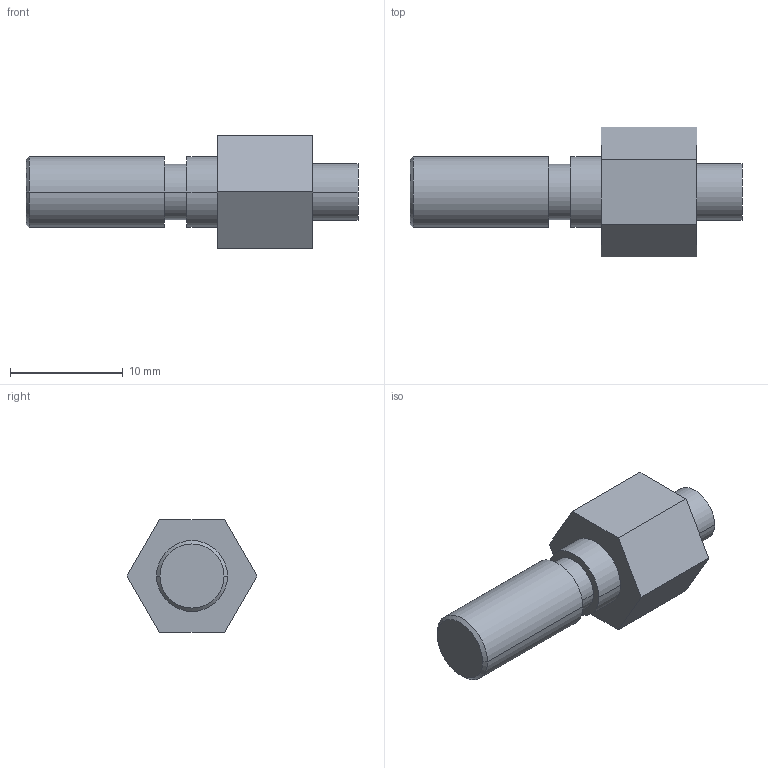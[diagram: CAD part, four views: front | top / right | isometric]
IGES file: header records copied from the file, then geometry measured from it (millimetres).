
Global section: file name: No Iges File Name specified; native system: Autodesk Inventor 2009; preprocessor: AutoDesk Inventor Iges Exporter R2009; author: y-shimohigashi; date: 20080702.104017; units: millimetre
Bounding box: 29.5 x 11.55 x 10 mm (x, y, z)
Volume: 1319.1 mm3; surface area: 879.2 mm2
Topology: 1 solids, 1 shells, 22 faces, 46 edges, 30 vertices
Faces by surface type: plane 12, cylinder 8, cone 2
